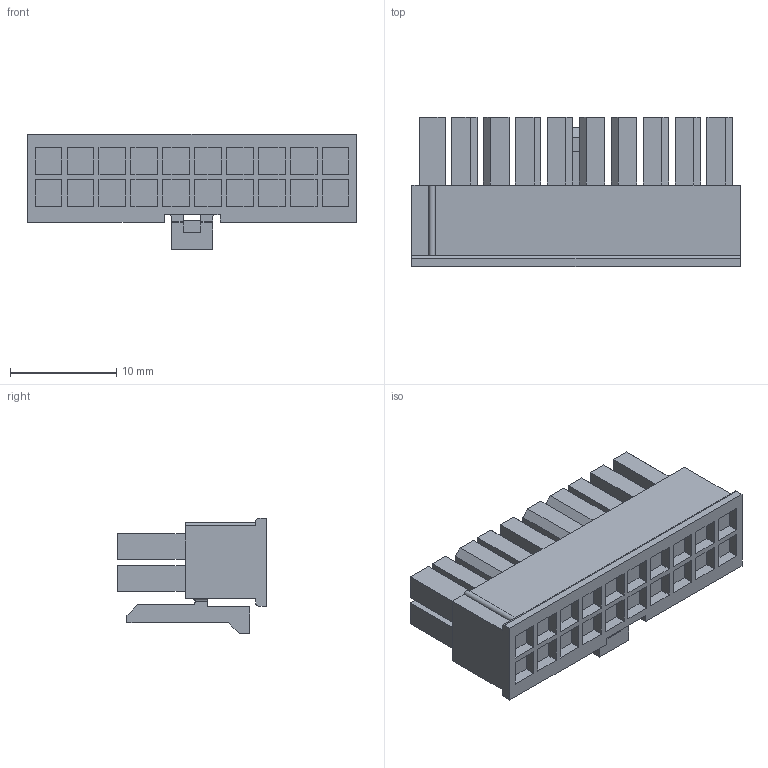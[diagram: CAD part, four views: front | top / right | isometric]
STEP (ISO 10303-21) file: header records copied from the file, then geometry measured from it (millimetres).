
FILE_DESCRIPTION((''),'2;1');
FILE_NAME('430252000','2018-10-10T',('gga'),(''),'PRO/ENGINEER BY PARAMETRIC TECHNOLOGY CORPORATION, 2016010','PRO/ENGINEER BY PARAMETRIC TECHNOLOGY CORPORATION, 2016010','');
FILE_SCHEMA(('CONFIG_CONTROL_DESIGN'));
Length unit declared in the file: millimetre
Products named in the file (1): 430252000
Bounding box: 30.85 x 14 x 10.83 mm (x, y, z)
Volume: 2258.7 mm3; surface area: 2726.7 mm2
Topology: 1 solids, 1 shells, 401 faces, 1017 edges, 678 vertices
Faces by surface type: plane 391, cylinder 10
Entity records: 11893 total; most frequent: CARTESIAN_POINT 2119, ORIENTED_EDGE 2034, DIRECTION 1837, EDGE_CURVE 1017, VECTOR 997, LINE 997, VERTEX_POINT 678, EDGE_LOOP 463
